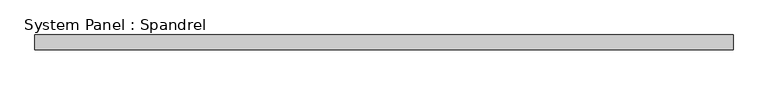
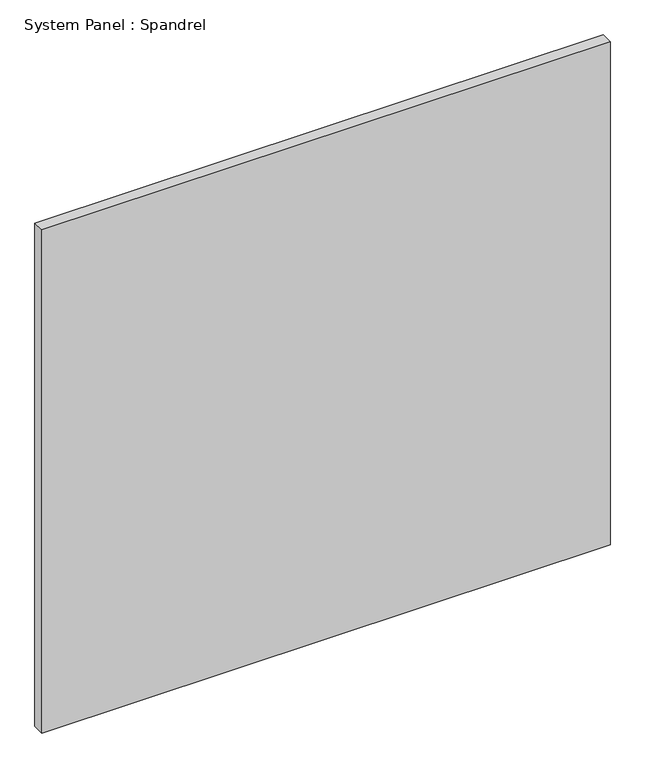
"""IFC4 building model written with IfcOpenShell, lengths in millimetres: plate geometry, System Panel : Spandrel."""

from ifc_helpers import new_model, si_unit, origin, origin_with_axes, place, context, project, spatial, polyline, outline, extrude, source, transform, mapped, element, save


def system_panel_spandrel_c325356a(model_context):
    return source(origin(), model_context, "Body", "SweptSolid", [
        extrude(outline(polyline([(587.4999997, -25.0), (-587.4999997, -25.0), (-587.4999997, 0.0), (587.4999997, 0.0), (587.4999997, -25.0)])), origin_with_axes(), (0.0, 0.0, 1.0), 1100.0),
    ])


if __name__ == "__main__":
    model = new_model("IFC4")
    model_context = context("Model", 3, world=origin())
    ifc_project = project(units=[si_unit("LENGTHUNIT", "METRE", prefix="MILLI")], contexts=[model_context])
    site = spatial("IfcSite", under=ifc_project)
    building = spatial("IfcBuilding", under=site)
    placement = place(None, origin())
    system_panel_spandrel_shape = system_panel_spandrel_c325356a(model_context)
    element("IfcPlate", 1, ObjectType="System Panel : Spandrel", at=placement, inside=building, context=model_context, shape_type="MappedRepresentation", body=[
        mapped(system_panel_spandrel_shape, transform((0.0, 0.0, 0.0), x_axis=(1.0, 0.0, 0.0), y_axis=(0.0, 1.0, 0.0), z_axis=(0.0, 0.0, 1.0))),
    ])
    save(model, "model.ifc")
